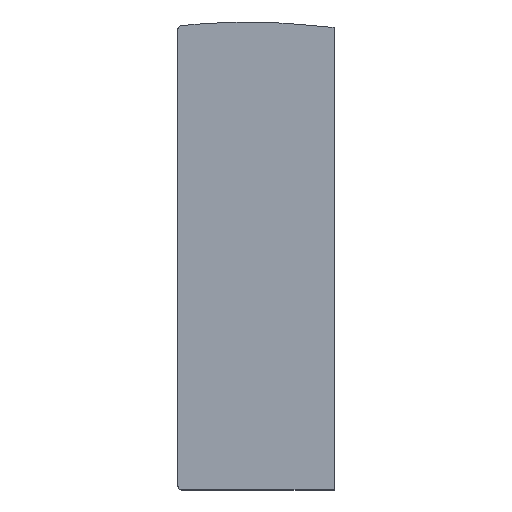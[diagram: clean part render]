
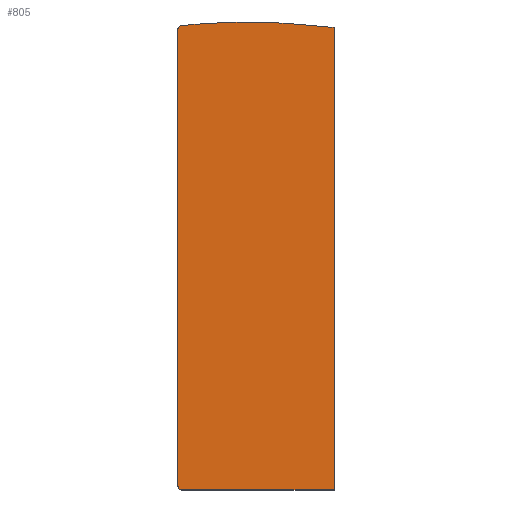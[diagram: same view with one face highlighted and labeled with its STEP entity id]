
A CAD part, top view. The second image highlights one B-rep face of the part: STEP entity #805.
In plain terms, the highlighted planar face has unit normal (0, 0, 1).
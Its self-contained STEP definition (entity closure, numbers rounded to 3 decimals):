
#30=CIRCLE('',#872,466.5);
#31=CIRCLE('',#875,279.756);
#32=CIRCLE('',#876,2.);
#33=CIRCLE('',#877,2.);
#74=FACE_OUTER_BOUND('',#120,.T.);
#120=EDGE_LOOP('',(#658,#659,#660,#661,#662,#663,#664,#665,#666));
#211=LINE('',#1377,#297);
#212=LINE('',#1378,#298);
#213=LINE('',#1382,#299);
#214=LINE('',#1386,#300);
#215=LINE('',#1389,#301);
#297=VECTOR('',#1020,10.);
#298=VECTOR('',#1021,10.);
#299=VECTOR('',#1024,10.);
#300=VECTOR('',#1027,10.);
#301=VECTOR('',#1030,10.);
#380=VERTEX_POINT('',#1368);
#381=VERTEX_POINT('',#1370);
#382=VERTEX_POINT('',#1375);
#383=VERTEX_POINT('',#1376);
#384=VERTEX_POINT('',#1379);
#385=VERTEX_POINT('',#1381);
#386=VERTEX_POINT('',#1383);
#387=VERTEX_POINT('',#1385);
#388=VERTEX_POINT('',#1387);
#480=EDGE_CURVE('',#381,#380,#30,.T.);
#482=EDGE_CURVE('',#382,#383,#211,.T.);
#483=EDGE_CURVE('',#383,#381,#212,.T.);
#484=EDGE_CURVE('',#380,#384,#31,.T.);
#485=EDGE_CURVE('',#384,#385,#213,.T.);
#486=EDGE_CURVE('',#385,#386,#32,.T.);
#487=EDGE_CURVE('',#386,#387,#214,.T.);
#488=EDGE_CURVE('',#387,#388,#33,.T.);
#489=EDGE_CURVE('',#388,#382,#215,.T.);
#658=ORIENTED_EDGE('',*,*,#482,.T.);
#659=ORIENTED_EDGE('',*,*,#483,.T.);
#660=ORIENTED_EDGE('',*,*,#480,.T.);
#661=ORIENTED_EDGE('',*,*,#484,.T.);
#662=ORIENTED_EDGE('',*,*,#485,.T.);
#663=ORIENTED_EDGE('',*,*,#486,.T.);
#664=ORIENTED_EDGE('',*,*,#487,.T.);
#665=ORIENTED_EDGE('',*,*,#488,.T.);
#666=ORIENTED_EDGE('',*,*,#489,.T.);
#765=PLANE('',#874);
#805=ADVANCED_FACE('',(#74),#765,.T.);
#872=AXIS2_PLACEMENT_3D('',#1371,#1013,#1014);
#874=AXIS2_PLACEMENT_3D('',#1374,#1018,#1019);
#875=AXIS2_PLACEMENT_3D('',#1380,#1022,#1023);
#876=AXIS2_PLACEMENT_3D('',#1384,#1025,#1026);
#877=AXIS2_PLACEMENT_3D('',#1388,#1028,#1029);
#1013=DIRECTION('center_axis',(0.,0.,-1.));
#1014=DIRECTION('ref_axis',(0.104,0.995,0.));
#1018=DIRECTION('center_axis',(0.,0.,1.));
#1019=DIRECTION('ref_axis',(1.,0.,0.));
#1020=DIRECTION('',(0.,1.,0.));
#1021=DIRECTION('',(-0.996,0.087,0.));
#1022=DIRECTION('center_axis',(0.,0.,1.));
#1023=DIRECTION('ref_axis',(0.104,0.995,0.));
#1024=DIRECTION('',(-0.996,-0.087,0.));
#1025=DIRECTION('center_axis',(0.,0.,1.));
#1026=DIRECTION('ref_axis',(-0.087,0.996,0.));
#1027=DIRECTION('',(0.,-1.,0.));
#1028=DIRECTION('center_axis',(0.,0.,1.));
#1029=DIRECTION('ref_axis',(-1.,0.,0.));
#1030=DIRECTION('',(1.,0.,0.));
#1368=CARTESIAN_POINT('',(24.83,238.393,2.));
#1370=CARTESIAN_POINT('',(32.587,237.649,2.));
#1371=CARTESIAN_POINT('Origin',(73.245,702.373,2.));
#1374=CARTESIAN_POINT('Origin',(0.,119.952,2.));
#1375=CARTESIAN_POINT('',(40.,0.,2.));
#1376=CARTESIAN_POINT('',(40.,237.,2.));
#1377=CARTESIAN_POINT('',(40.,0.,2.));
#1378=CARTESIAN_POINT('',(40.,237.,2.));
#1379=CARTESIAN_POINT('',(-28.587,238.839,2.));
#1380=CARTESIAN_POINT('Origin',(-4.205,-39.853,2.));
#1381=CARTESIAN_POINT('',(-38.174,238.,2.));
#1382=CARTESIAN_POINT('',(-28.587,238.839,2.));
#1383=CARTESIAN_POINT('',(-40.,236.008,2.));
#1384=CARTESIAN_POINT('Origin',(-38.,236.008,2.));
#1385=CARTESIAN_POINT('',(-40.,2.,2.));
#1386=CARTESIAN_POINT('',(-40.,236.008,2.));
#1387=CARTESIAN_POINT('',(-38.,0.,2.));
#1388=CARTESIAN_POINT('Origin',(-38.,2.,2.));
#1389=CARTESIAN_POINT('',(-38.,0.,2.));
